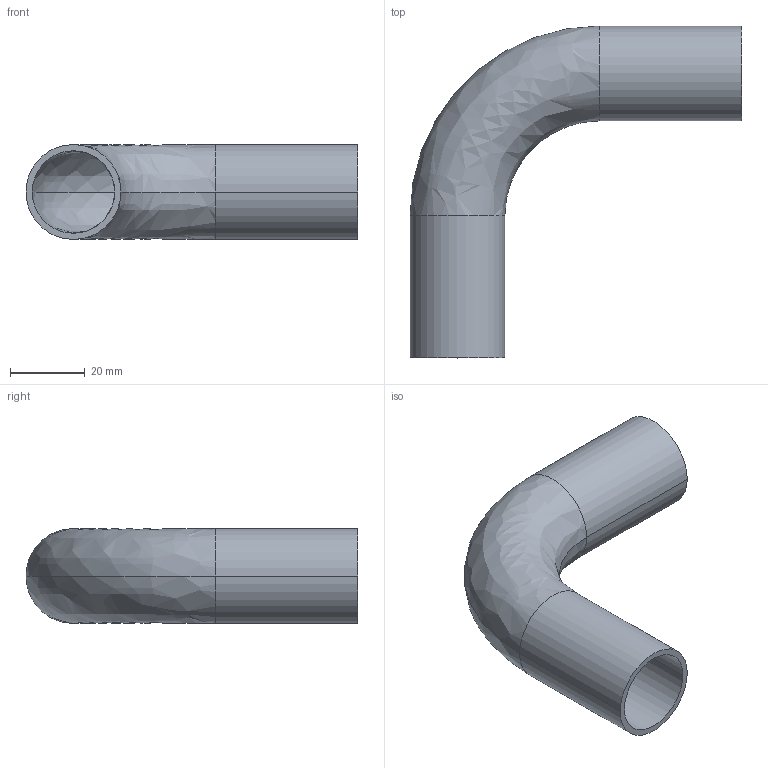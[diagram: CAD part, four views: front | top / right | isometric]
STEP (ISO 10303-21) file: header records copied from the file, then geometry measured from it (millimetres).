
FILE_DESCRIPTION (( 'STEP AP214' ), '1' );
FILE_NAME ('TE2S6L1.0-...STEP', '2016-05-22T09:48:16', ( 'eran' ), ( '' ), 'SwSTEP 2.0', 'SolidWorks 2016', '' );
FILE_SCHEMA (( 'AUTOMOTIVE_DESIGN' ));
Length unit declared in the file: millimetre
Products named in the file (1): TE2S6L1.0-..
Bounding box: 88.9 x 88.9 x 25.4 mm (x, y, z)
Volume: 16748.9 mm3; surface area: 20548 mm2
Topology: 1 solids, 1 shells, 14 faces, 28 edges, 16 vertices
Faces by surface type: cylinder 8, bspline 4, plane 2
Entity records: 450 total; most frequent: CARTESIAN_POINT 119, DIRECTION 70, ORIENTED_EDGE 56, AXIS2_PLACEMENT_3D 31, EDGE_CURVE 28, CIRCLE 20, EDGE_LOOP 16, VERTEX_POINT 16
